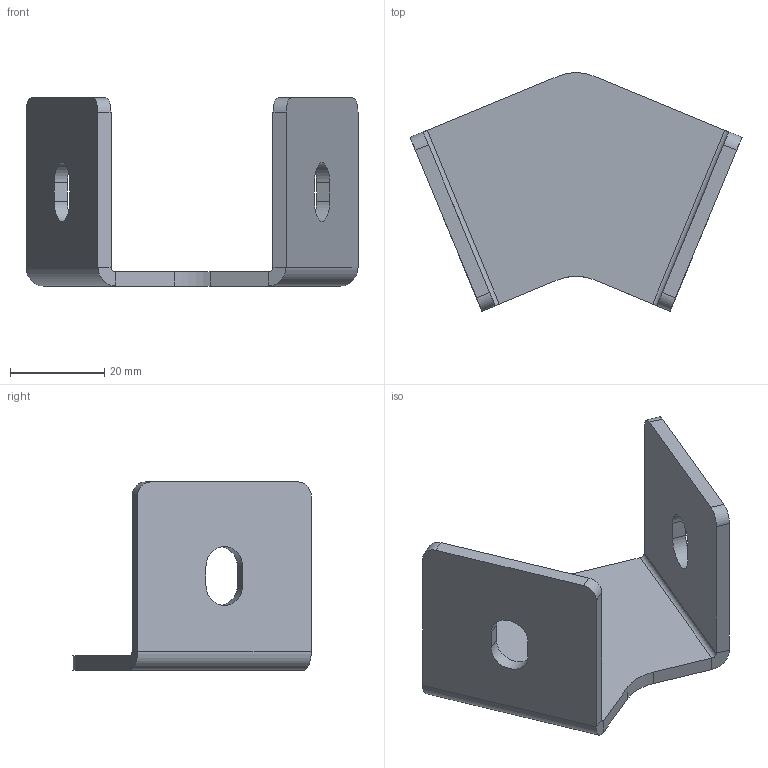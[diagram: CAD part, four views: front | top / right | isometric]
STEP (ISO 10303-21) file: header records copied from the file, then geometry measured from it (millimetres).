
FILE_DESCRIPTION (( 'STEP AP214' ), '1' );
FILE_NAME ('404045.STEP', '2018-02-21T11:38:53', ( '' ), ( '' ), 'SwSTEP 2.0', 'SolidWorks 2014', '' );
FILE_SCHEMA (( 'AUTOMOTIVE_DESIGN' ));
Length unit declared in the file: millimetre
Products named in the file (2): 404045
Bounding box: 70.61 x 50.73 x 40 mm (x, y, z)
Volume: 15238 mm3; surface area: 11379.2 mm2
Topology: 1 solids, 1 shells, 38 faces, 92 edges, 56 vertices
Faces by surface type: plane 24, cylinder 14
Entity records: 1153 total; most frequent: DIRECTION 200, CARTESIAN_POINT 188, ORIENTED_EDGE 184, EDGE_CURVE 92, AXIS2_PLACEMENT_3D 68, LINE 64, VECTOR 64, VERTEX_POINT 56
